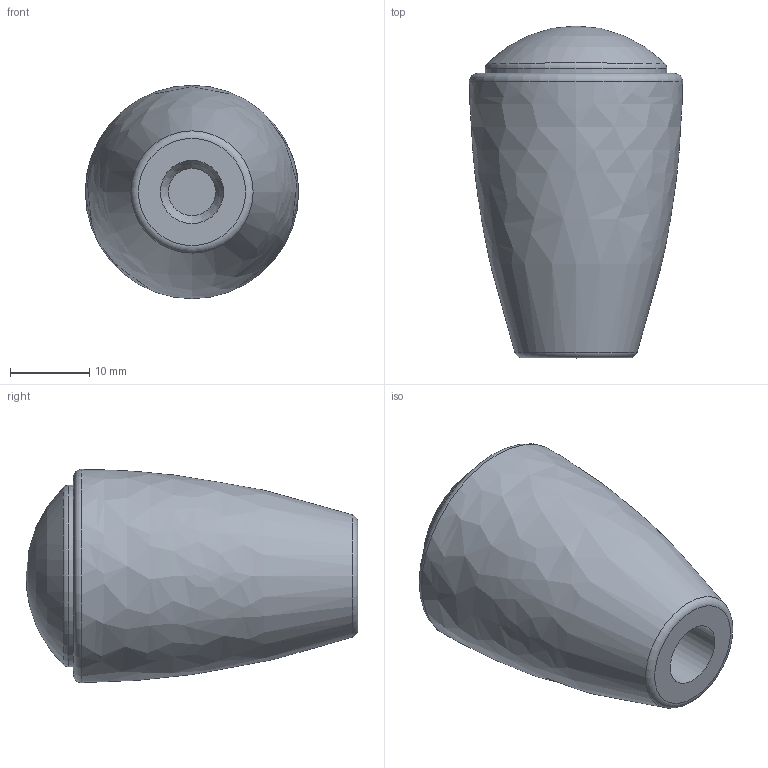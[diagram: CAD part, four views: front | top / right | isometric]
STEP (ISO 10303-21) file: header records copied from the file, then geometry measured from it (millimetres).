
FILE_DESCRIPTION( ( 'STEP AP203' ), '1' );
FILE_NAME( 'C:/Temp/Ganter_Step_05_03_2020/data/1_1/gn518/Tapered knob GN 518-27-B8.stp', '2020-03-05T10:03:34', ( 'License CC BY-ND 4.0' ), ( 'CADENAS' ), ' ', 'PARTsolutions', ' ' );
FILE_SCHEMA( ( 'CONFIG_CONTROL_DESIGN' ) );
Length unit declared in the file: millimetre
Products named in the file (1): _Tapered knob GN 518-27-B8
Bounding box: 26.99 x 42 x 26.99 mm (x, y, z)
Volume: 15357.1 mm3; surface area: 4265 mm2
Topology: 1 solids, 1 shells, 12 faces, 21 edges, 12 vertices
Faces by surface type: cylinder 3, plane 3, torus 3, cone 1, bspline 1, sphere 1
Full cylindrical faces by diameter (mm): 6 x1, 8 x1, 23 x1
Entity records: 309 total; most frequent: CARTESIAN_POINT 64, DIRECTION 46, AXIS2_PLACEMENT_3D 23, EDGE_LOOP 22, ORIENTED_EDGE 22, FACE_OUTER_BOUND 19, VERTEX_POINT 13, ADVANCED_FACE 12
